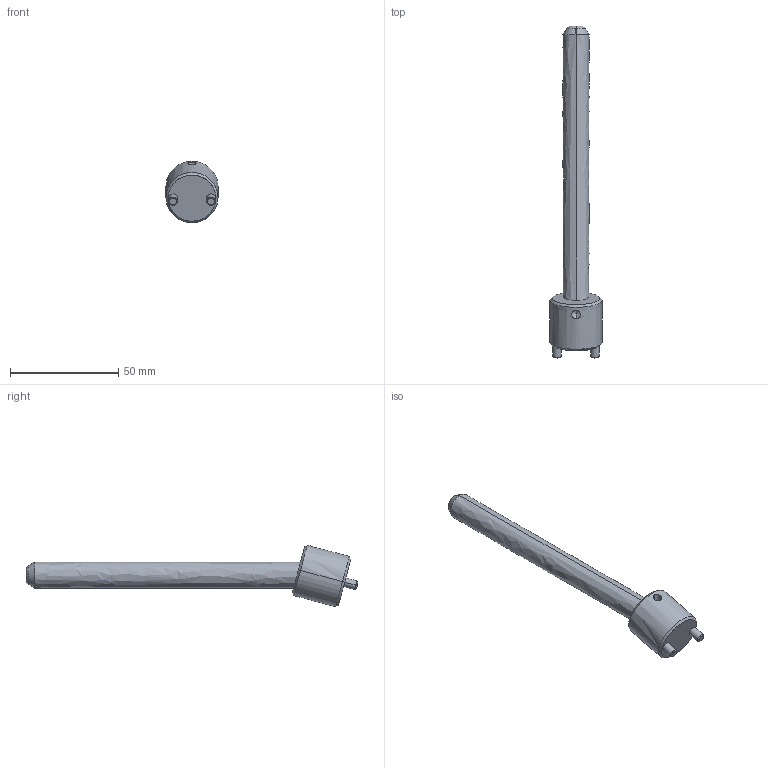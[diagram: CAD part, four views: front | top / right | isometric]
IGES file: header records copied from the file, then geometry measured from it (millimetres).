
Start section: START RECORD GO HERE.
Global section: file name: CI1512125.igs; native system: DASSAULT SYSTEMES CATIA V5 R20 - www.3ds.com; preprocessor: CATIA Version 5 Release 20 ; author: r.borello; organization: CFTORINO; date: 20190620.155230; units: millimetre
Bounding box: 24 x 153.08 x 28.36 mm (x, y, z)
Surface area: 8907.3 mm2 (no closed solid volume)
Topology: 0 solids, 0 shells, 39 faces, 162 edges, 160 vertices
Faces by surface type: revolution 32, plane 7
